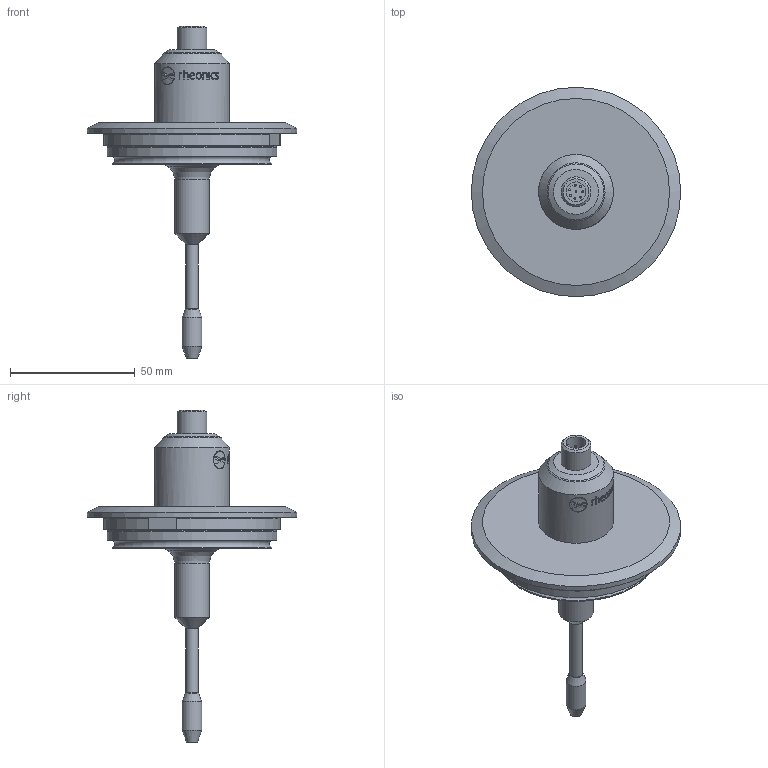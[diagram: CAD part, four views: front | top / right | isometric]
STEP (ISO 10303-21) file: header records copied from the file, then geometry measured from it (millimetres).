
FILE_DESCRIPTION(/* description */ ('Unknown'),/* implementation_level */ '2;1');
FILE_NAME(/* name */ 'SRV-X2-VN',/* time_stamp */ '2024-10-22T12:17:40-05:00',/* author */ ('Unknown'),/* organization */ ('Unknown'),/* preprocessor_version */ 'ST-DEVELOPER v16.7',/* originating_system */ 'Solid Edge',/* authorisation */ 'Unknown');
FILE_SCHEMA (('AUTOMOTIVE_DESIGN {1 0 10303 214 3 1 1}'));
Length unit declared in the file: millimetre
Products named in the file (1): SRV-X2-VN
Bounding box: 84 x 84 x 133.13 mm (x, y, z)
Volume: 93017.3 mm3; surface area: 19749 mm2
Topology: 1 solids, 1 shells, 182 faces, 461 edges, 297 vertices
Faces by surface type: bspline 71, plane 42, cylinder 42, cone 12, sphere 8, torus 7
Full cylindrical faces by diameter (mm): 0.8 x8, 5.019 x1, 8 x2, 12 x1, 13.9 x1, 30 x2, 64 x1, 68 x1, 84 x1
Entity records: 9490 total; most frequent: CARTESIAN_POINT 4634, ORIENTED_EDGE 782, DIRECTION 522, EDGE_CURVE 391, VERTEX_POINT 278, EDGE_LOOP 249, FACE_BOUND 249, AXIS2_PLACEMENT_3D 194
